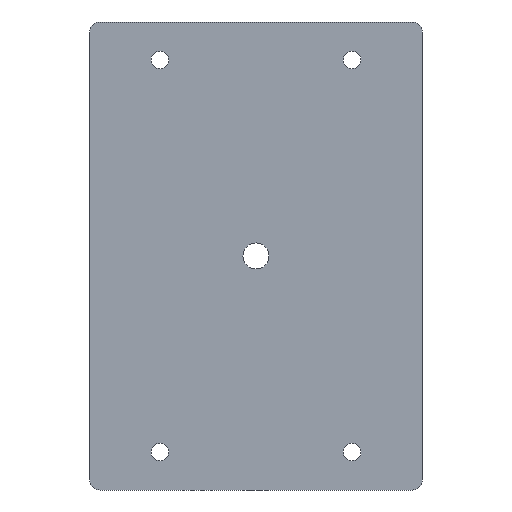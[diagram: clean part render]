
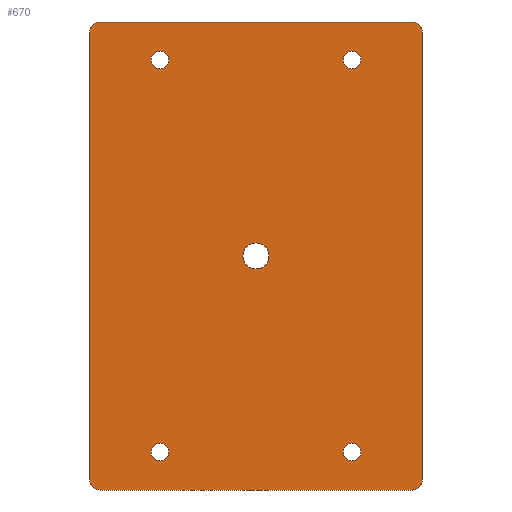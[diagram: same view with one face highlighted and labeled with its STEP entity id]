
A CAD part, front view. The second image highlights one B-rep face of the part: STEP entity #670.
In plain terms, the highlighted planar face has unit normal (0, -1, 0).
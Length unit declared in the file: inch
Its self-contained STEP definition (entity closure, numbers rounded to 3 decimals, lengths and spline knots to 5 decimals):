
#79=CARTESIAN_POINT('',(-1.5,-0.375,-2.15));
#80=DIRECTION('',(0.,1.,0.));
#81=DIRECTION('',(0.,0.,-1.));
#82=AXIS2_PLACEMENT_3D('',#79,#80,#81);
#84=CARTESIAN_POINT('',(-1.5,-0.375,2.15));
#85=DIRECTION('',(0.,1.,0.));
#86=DIRECTION('',(-1.,0.,0.));
#87=AXIS2_PLACEMENT_3D('',#84,#85,#86);
#89=CARTESIAN_POINT('',(1.5,-0.375,2.15));
#90=DIRECTION('',(0.,1.,0.));
#91=DIRECTION('',(0.,0.,1.));
#92=AXIS2_PLACEMENT_3D('',#89,#90,#91);
#94=CARTESIAN_POINT('',(1.5,-0.375,-2.15));
#95=DIRECTION('',(0.,1.,0.));
#96=DIRECTION('',(1.,0.,0.));
#97=AXIS2_PLACEMENT_3D('',#94,#95,#96);
#99=CARTESIAN_POINT('',(-0.925,-0.375,1.885));
#100=DIRECTION('',(0.,-1.,0.));
#101=DIRECTION('',(-1.,0.,0.));
#102=AXIS2_PLACEMENT_3D('',#99,#100,#101);
#104=CARTESIAN_POINT('',(-0.925,-0.375,1.885));
#105=DIRECTION('',(0.,-1.,0.));
#106=DIRECTION('',(1.,0.,0.));
#107=AXIS2_PLACEMENT_3D('',#104,#105,#106);
#109=CARTESIAN_POINT('',(0.925,-0.375,1.885));
#110=DIRECTION('',(0.,-1.,0.));
#111=DIRECTION('',(-1.,0.,0.));
#112=AXIS2_PLACEMENT_3D('',#109,#110,#111);
#114=CARTESIAN_POINT('',(0.925,-0.375,1.885));
#115=DIRECTION('',(0.,-1.,0.));
#116=DIRECTION('',(1.,0.,0.));
#117=AXIS2_PLACEMENT_3D('',#114,#115,#116);
#119=CARTESIAN_POINT('',(-0.925,-0.375,-1.885));
#120=DIRECTION('',(0.,-1.,0.));
#121=DIRECTION('',(-1.,0.,0.));
#122=AXIS2_PLACEMENT_3D('',#119,#120,#121);
#124=CARTESIAN_POINT('',(-0.925,-0.375,-1.885));
#125=DIRECTION('',(0.,-1.,0.));
#126=DIRECTION('',(1.,0.,0.));
#127=AXIS2_PLACEMENT_3D('',#124,#125,#126);
#129=CARTESIAN_POINT('',(0.925,-0.375,-1.885));
#130=DIRECTION('',(0.,-1.,0.));
#131=DIRECTION('',(-1.,0.,0.));
#132=AXIS2_PLACEMENT_3D('',#129,#130,#131);
#134=CARTESIAN_POINT('',(0.925,-0.375,-1.885));
#135=DIRECTION('',(0.,-1.,0.));
#136=DIRECTION('',(1.,0.,0.));
#137=AXIS2_PLACEMENT_3D('',#134,#135,#136);
#139=CARTESIAN_POINT('',(0.,-0.375,0.));
#140=DIRECTION('',(0.,-1.,0.));
#141=DIRECTION('',(1.,0.,0.));
#142=AXIS2_PLACEMENT_3D('',#139,#140,#141);
#144=CARTESIAN_POINT('',(0.,-0.375,0.));
#145=DIRECTION('',(0.,-1.,0.));
#146=DIRECTION('',(-1.,0.,0.));
#147=AXIS2_PLACEMENT_3D('',#144,#145,#146);
#153=DIRECTION('',(0.,0.,1.));
#154=VECTOR('',#153,4.3);
#155=CARTESIAN_POINT('',(-1.6,-0.375,-2.15));
#156=LINE('',#155,#154);
#179=DIRECTION('',(1.,0.,0.));
#180=VECTOR('',#179,3.);
#181=CARTESIAN_POINT('',(-1.5,-0.375,2.25));
#182=LINE('',#181,#180);
#205=DIRECTION('',(0.,0.,-1.));
#206=VECTOR('',#205,4.3);
#207=CARTESIAN_POINT('',(1.6,-0.375,2.15));
#208=LINE('',#207,#206);
#227=DIRECTION('',(-1.,0.,0.));
#228=VECTOR('',#227,3.);
#229=CARTESIAN_POINT('',(1.5,-0.375,-2.25));
#230=LINE('',#229,#228);
#445=CARTESIAN_POINT('',(-1.5,-0.375,-2.25));
#446=CARTESIAN_POINT('',(-1.6,-0.375,-2.15));
#447=VERTEX_POINT('',#445);
#448=VERTEX_POINT('',#446);
#449=CARTESIAN_POINT('',(1.5,-0.375,-2.25));
#450=VERTEX_POINT('',#449);
#451=CARTESIAN_POINT('',(1.6,-0.375,-2.15));
#452=VERTEX_POINT('',#451);
#453=CARTESIAN_POINT('',(1.6,-0.375,2.15));
#454=VERTEX_POINT('',#453);
#455=CARTESIAN_POINT('',(1.5,-0.375,2.25));
#456=VERTEX_POINT('',#455);
#457=CARTESIAN_POINT('',(-1.5,-0.375,2.25));
#458=VERTEX_POINT('',#457);
#459=CARTESIAN_POINT('',(-1.6,-0.375,2.15));
#460=VERTEX_POINT('',#459);
#494=CARTESIAN_POINT('',(-0.8405,-0.375,1.885));
#496=VERTEX_POINT('',#494);
#497=CARTESIAN_POINT('',(-1.0095,-0.375,1.885));
#499=VERTEX_POINT('',#497);
#506=CARTESIAN_POINT('',(1.0095,-0.375,1.885));
#508=VERTEX_POINT('',#506);
#509=CARTESIAN_POINT('',(0.8405,-0.375,1.885));
#511=VERTEX_POINT('',#509);
#518=CARTESIAN_POINT('',(-0.8405,-0.375,-1.885));
#520=VERTEX_POINT('',#518);
#521=CARTESIAN_POINT('',(-1.0095,-0.375,-1.885));
#523=VERTEX_POINT('',#521);
#530=CARTESIAN_POINT('',(1.0095,-0.375,-1.885));
#532=VERTEX_POINT('',#530);
#533=CARTESIAN_POINT('',(0.8405,-0.375,-1.885));
#535=VERTEX_POINT('',#533);
#541=CARTESIAN_POINT('',(0.125,-0.375,0.));
#543=VERTEX_POINT('',#541);
#546=CARTESIAN_POINT('',(-0.125,-0.375,0.));
#548=VERTEX_POINT('',#546);
#618=CARTESIAN_POINT('',(0.,-0.375,0.));
#619=DIRECTION('',(0.,1.,0.));
#620=DIRECTION('',(1.,0.,0.));
#621=AXIS2_PLACEMENT_3D('',#618,#619,#620);
#622=PLANE('',#621);
#623=ORIENTED_EDGE('',*,*,#608,.T.);
#625=ORIENTED_EDGE('',*,*,#624,.T.);
#627=ORIENTED_EDGE('',*,*,#626,.T.);
#629=ORIENTED_EDGE('',*,*,#628,.T.);
#631=ORIENTED_EDGE('',*,*,#630,.T.);
#633=ORIENTED_EDGE('',*,*,#632,.T.);
#635=ORIENTED_EDGE('',*,*,#634,.T.);
#637=ORIENTED_EDGE('',*,*,#636,.T.);
#638=EDGE_LOOP('',(#623,#625,#627,#629,#631,#633,#635,#637));
#639=FACE_OUTER_BOUND('',#638,.F.);
#641=ORIENTED_EDGE('',*,*,#640,.T.);
#643=ORIENTED_EDGE('',*,*,#642,.T.);
#644=EDGE_LOOP('',(#641,#643));
#645=FACE_BOUND('',#644,.F.);
#647=ORIENTED_EDGE('',*,*,#646,.T.);
#649=ORIENTED_EDGE('',*,*,#648,.T.);
#650=EDGE_LOOP('',(#647,#649));
#651=FACE_BOUND('',#650,.F.);
#653=ORIENTED_EDGE('',*,*,#652,.T.);
#655=ORIENTED_EDGE('',*,*,#654,.T.);
#656=EDGE_LOOP('',(#653,#655));
#657=FACE_BOUND('',#656,.F.);
#659=ORIENTED_EDGE('',*,*,#658,.T.);
#661=ORIENTED_EDGE('',*,*,#660,.T.);
#662=EDGE_LOOP('',(#659,#661));
#663=FACE_BOUND('',#662,.F.);
#665=ORIENTED_EDGE('',*,*,#664,.T.);
#667=ORIENTED_EDGE('',*,*,#666,.T.);
#668=EDGE_LOOP('',(#665,#667));
#669=FACE_BOUND('',#668,.F.);
#670=ADVANCED_FACE('',(#639,#645,#651,#657,#663,#669),#622,.F.);
#83=CIRCLE('',#82,0.1);
#88=CIRCLE('',#87,0.1);
#93=CIRCLE('',#92,0.1);
#98=CIRCLE('',#97,0.1);
#103=CIRCLE('',#102,0.0845);
#108=CIRCLE('',#107,0.0845);
#113=CIRCLE('',#112,0.0845);
#118=CIRCLE('',#117,0.0845);
#123=CIRCLE('',#122,0.0845);
#128=CIRCLE('',#127,0.0845);
#133=CIRCLE('',#132,0.0845);
#138=CIRCLE('',#137,0.0845);
#143=CIRCLE('',#142,0.125);
#148=CIRCLE('',#147,0.125);
#608=EDGE_CURVE('',#447,#448,#83,.T.);
#624=EDGE_CURVE('',#448,#460,#156,.T.);
#626=EDGE_CURVE('',#460,#458,#88,.T.);
#628=EDGE_CURVE('',#458,#456,#182,.T.);
#630=EDGE_CURVE('',#456,#454,#93,.T.);
#632=EDGE_CURVE('',#454,#452,#208,.T.);
#634=EDGE_CURVE('',#452,#450,#98,.T.);
#636=EDGE_CURVE('',#450,#447,#230,.T.);
#640=EDGE_CURVE('',#499,#496,#103,.T.);
#642=EDGE_CURVE('',#496,#499,#108,.T.);
#646=EDGE_CURVE('',#511,#508,#113,.T.);
#648=EDGE_CURVE('',#508,#511,#118,.T.);
#652=EDGE_CURVE('',#523,#520,#123,.T.);
#654=EDGE_CURVE('',#520,#523,#128,.T.);
#658=EDGE_CURVE('',#535,#532,#133,.T.);
#660=EDGE_CURVE('',#532,#535,#138,.T.);
#664=EDGE_CURVE('',#543,#548,#143,.T.);
#666=EDGE_CURVE('',#548,#543,#148,.T.);
